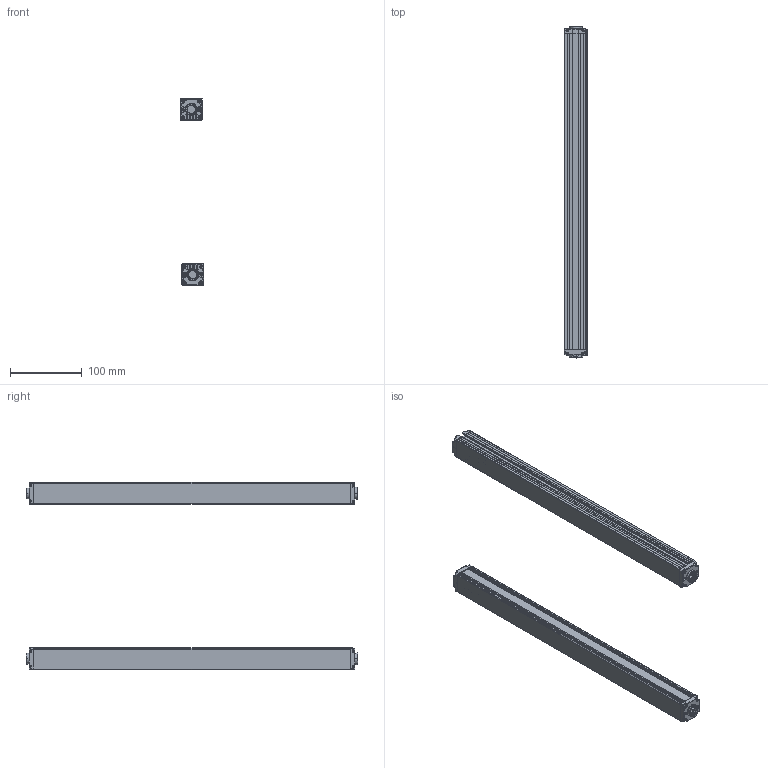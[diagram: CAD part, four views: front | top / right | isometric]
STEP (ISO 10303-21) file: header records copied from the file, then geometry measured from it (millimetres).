
FILE_DESCRIPTION (( 'STEP AP203' ), '1' );
FILE_NAME ('ZDA4210-440.STEP', '2022-08-30T03:47:35', ( 'Windows 蚚誧' ), ( 'Organization' ), 'SwSTEP 2.0', 'SolidWorks 2020', '' );
FILE_SCHEMA (( 'CONFIG_CONTROL_DESIGN' ));
Length unit declared in the file: millimetre
Products named in the file (5): 錨璃8; 錨璃8 - 萵掛 (2); 錨璃10; ZDA4210-440; 錨璃1
Assembly tree (8 placements, depth 2):
  ZDA4210-440
    錨璃1  x2
    錨璃8  x2
    錨璃8 - 萵掛 (2)  x2
    錨璃10  x2
Bounding box: 32.36 x 461.4 x 260.35 mm (x, y, z)
Volume: 285823.5 mm3; surface area: 304207.6 mm2
Topology: 8 solids, 8 shells, 1032 faces, 2690 edges, 1668 vertices
Faces by surface type: plane 464, cylinder 310, cone 120, bspline 58, torus 48, sphere 32
Entity records: 17901 total; most frequent: CARTESIAN_POINT 4731, ORIENTED_EDGE 2666, DIRECTION 2616, EDGE_CURVE 1333, AXIS2_PLACEMENT_3D 894, VERTEX_POINT 834, LINE 828, VECTOR 828
